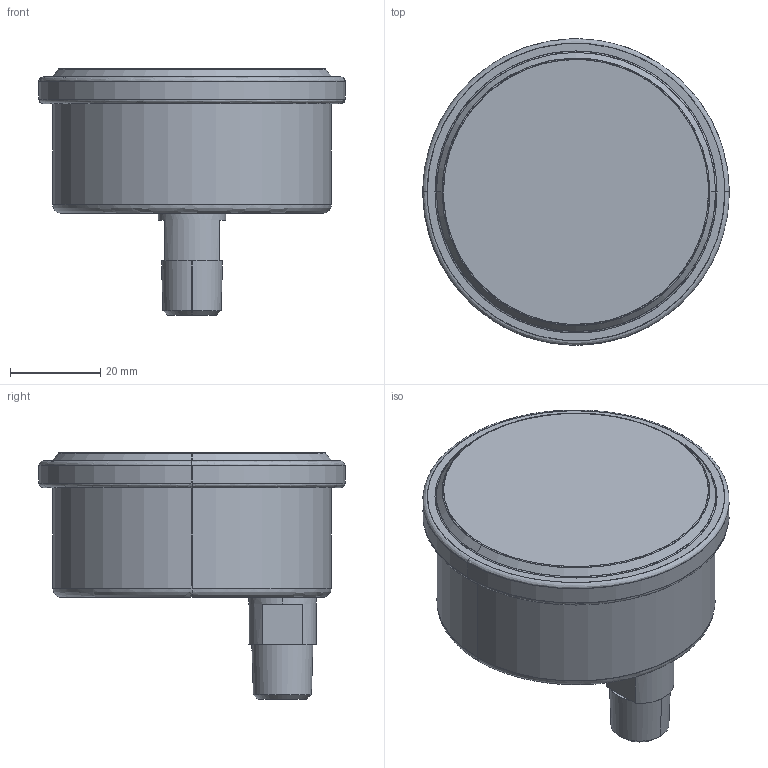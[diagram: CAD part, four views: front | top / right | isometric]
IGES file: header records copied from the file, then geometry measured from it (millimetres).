
Start section: SolidWorks IGES file using analytic representation for surfaces
Global section: file name: L:\電子カタログ-3D_IGES\JGBxx1.igs; native system: SolidWorks 2009; preprocessor: SolidWorks 2009; author: D211; date: 100316.133134; units: millimetre
Bounding box: 67.8 x 67.8 x 54.5 mm (x, y, z)
Surface area: 14205.7 mm2 (no closed solid volume)
Topology: 0 solids, 0 shells, 33 faces, 636 edges, 636 vertices
Faces by surface type: bspline 21, revolution 12
